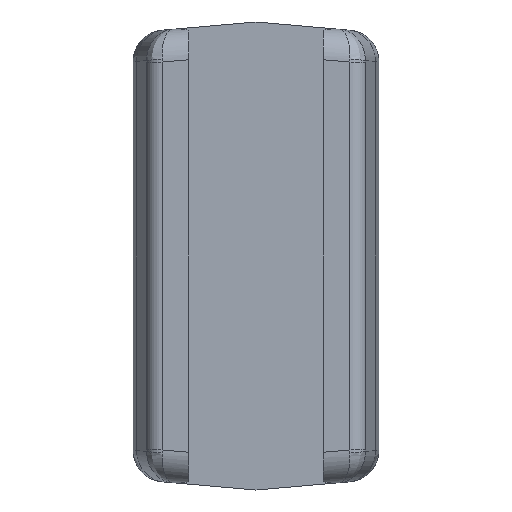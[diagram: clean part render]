
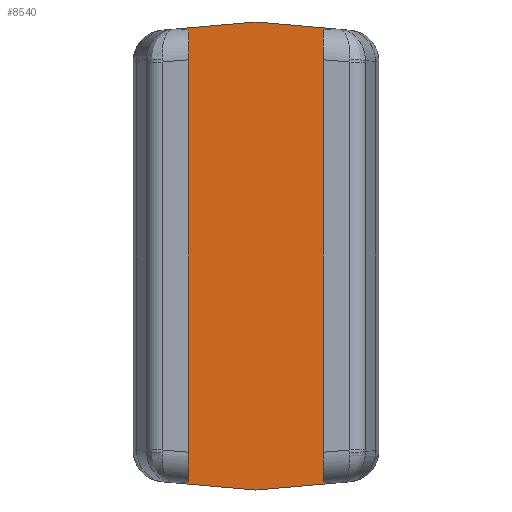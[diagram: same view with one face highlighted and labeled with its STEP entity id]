
A CAD part, left-side view. The second image highlights one B-rep face of the part: STEP entity #8540.
In plain terms, the highlighted planar face has unit normal (-1, 0, 0).
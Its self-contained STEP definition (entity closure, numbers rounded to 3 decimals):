
#206 = LINE ( 'NONE', #7133, #2589 ) ;
#269 = VERTEX_POINT ( 'NONE', #2470 ) ;
#334 = DIRECTION ( 'NONE',  ( 0., 0.996, -0.087 ) ) ;
#365 = LINE ( 'NONE', #8723, #7490 ) ;
#1333 = VERTEX_POINT ( 'NONE', #7070 ) ;
#1369 = AXIS2_PLACEMENT_3D ( 'NONE', #8776, #5286, #4009 ) ;
#1385 = DIRECTION ( 'NONE',  ( 0., -0.996, -0.087 ) ) ;
#1713 = FACE_OUTER_BOUND ( 'NONE', #2536, .T. ) ;
#2004 = CARTESIAN_POINT ( 'NONE',  ( 12., 10., -37. ) ) ;
#2067 = VECTOR ( 'NONE', #2675, 1000. ) ;
#2083 = ORIENTED_EDGE ( 'NONE', *, *, #6270, .F. ) ;
#2470 = CARTESIAN_POINT ( 'NONE',  ( 12., -10., 28.625 ) ) ;
#2536 = EDGE_LOOP ( 'NONE', ( #3781, #7306, #2083, #4787, #5902, #5395 ) ) ;
#2589 = VECTOR ( 'NONE', #334, 1000. ) ;
#2675 = DIRECTION ( 'NONE',  ( 0., 0., -1. ) ) ;
#3629 = LINE ( 'NONE', #5499, #4192 ) ;
#3781 = ORIENTED_EDGE ( 'NONE', *, *, #6588, .F. ) ;
#3880 = LINE ( 'NONE', #6796, #2067 ) ;
#3911 = VERTEX_POINT ( 'NONE', #4519 ) ;
#3929 = EDGE_CURVE ( 'NONE', #7615, #7678, #365, .T. ) ;
#4009 = DIRECTION ( 'NONE',  ( 0., 1., 0. ) ) ;
#4192 = VECTOR ( 'NONE', #1385, 1000. ) ;
#4304 = VECTOR ( 'NONE', #5478, 1000. ) ;
#4519 = CARTESIAN_POINT ( 'NONE',  ( 12., 10., 28.625 ) ) ;
#4598 = PLANE ( 'NONE',  #1369 ) ;
#4720 = LINE ( 'NONE', #2004, #5363 ) ;
#4787 = ORIENTED_EDGE ( 'NONE', *, *, #3929, .F. ) ;
#5214 = CARTESIAN_POINT ( 'NONE',  ( 12., 10., -28.625 ) ) ;
#5286 = DIRECTION ( 'NONE',  ( 1., 0., 0. ) ) ;
#5363 = VECTOR ( 'NONE', #7516, 1000. ) ;
#5395 = ORIENTED_EDGE ( 'NONE', *, *, #7801, .F. ) ;
#5478 = DIRECTION ( 'NONE',  ( 0., -0.996, 0.087 ) ) ;
#5499 = CARTESIAN_POINT ( 'NONE',  ( 12., 0., 29.5 ) ) ;
#5902 = ORIENTED_EDGE ( 'NONE', *, *, #8172, .F. ) ;
#6147 = LINE ( 'NONE', #8814, #4304 ) ;
#6270 = EDGE_CURVE ( 'NONE', #7678, #3911, #4720, .T. ) ;
#6281 = CARTESIAN_POINT ( 'NONE',  ( 12., -10., -28.625 ) ) ;
#6588 = EDGE_CURVE ( 'NONE', #1333, #269, #3629, .T. ) ;
#6661 = DIRECTION ( 'NONE',  ( 0., 0.996, 0.087 ) ) ;
#6796 = CARTESIAN_POINT ( 'NONE',  ( 12., -10., -37. ) ) ;
#7070 = CARTESIAN_POINT ( 'NONE',  ( 12., 0., 29.5 ) ) ;
#7130 = VERTEX_POINT ( 'NONE', #6281 ) ;
#7133 = CARTESIAN_POINT ( 'NONE',  ( 12., -10., -28.625 ) ) ;
#7306 = ORIENTED_EDGE ( 'NONE', *, *, #8274, .F. ) ;
#7490 = VECTOR ( 'NONE', #6661, 1000. ) ;
#7516 = DIRECTION ( 'NONE',  ( 0., 0., 1. ) ) ;
#7615 = VERTEX_POINT ( 'NONE', #7810 ) ;
#7678 = VERTEX_POINT ( 'NONE', #5214 ) ;
#7801 = EDGE_CURVE ( 'NONE', #269, #7130, #3880, .T. ) ;
#7810 = CARTESIAN_POINT ( 'NONE',  ( 12., 0., -29.5 ) ) ;
#8172 = EDGE_CURVE ( 'NONE', #7130, #7615, #206, .T. ) ;
#8274 = EDGE_CURVE ( 'NONE', #3911, #1333, #6147, .T. ) ;
#8540 = ADVANCED_FACE ( 'NONE', ( #1713 ), #4598, .F. ) ;
#8723 = CARTESIAN_POINT ( 'NONE',  ( 12., 0., -29.5 ) ) ;
#8776 = CARTESIAN_POINT ( 'NONE',  ( 12., -10., -37. ) ) ;
#8814 = CARTESIAN_POINT ( 'NONE',  ( 12., 10., 28.625 ) ) ;
